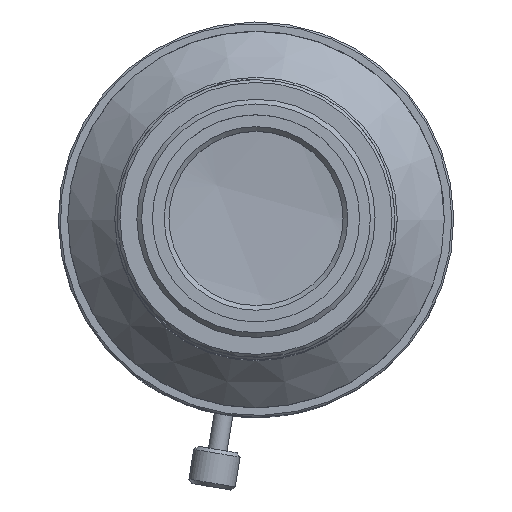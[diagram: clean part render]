
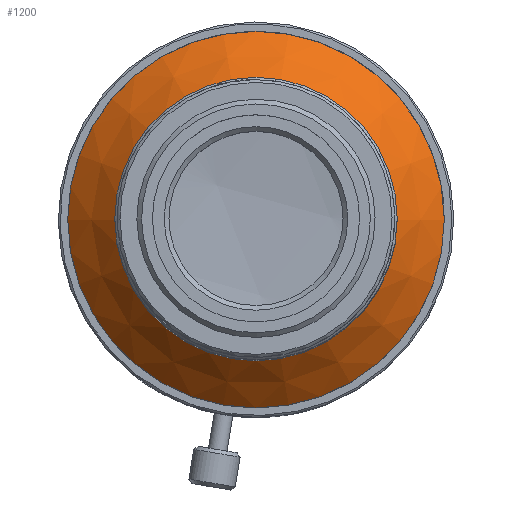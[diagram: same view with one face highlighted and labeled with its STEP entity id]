
A CAD part, top view. The second image highlights one B-rep face of the part: STEP entity #1200.
In plain terms, the highlighted conical face has half-angle 45 degrees and reference radius 20 mm.
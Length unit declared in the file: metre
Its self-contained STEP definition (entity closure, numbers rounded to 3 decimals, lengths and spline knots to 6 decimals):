
#1200=ADVANCED_FACE('NONE',(#3115,#3116),#3117,.T.);
#2090=EDGE_CURVE('0:4175',#4388,#4388,#4389,.T.);
#2094=EDGE_CURVE('0:4163',#4394,#4394,#4395,.T.);
#3115=FACE_OUTER_BOUND('',#5557,.T.);
#3116=FACE_BOUND('',#5558,.T.);
#3117=CONICAL_SURFACE('',#5559,0.02,0.785);
#4388=VERTEX_POINT('',#10600);
#4389=CIRCLE('',#10601,0.015);
#4394=VERTEX_POINT('',#10608);
#4395=CIRCLE('',#10609,0.02);
#5557=EDGE_LOOP('',(#14030));
#5558=EDGE_LOOP('',(#14031));
#5559=AXIS2_PLACEMENT_3D('',#14032,#14033,#14034);
#10600=CARTESIAN_POINT('',(0.017776,0.008552,0.05512));
#10601=AXIS2_PLACEMENT_3D('',#15339,#15340,#15341);
#10608=CARTESIAN_POINT('',(-0.016963,0.004287,0.05012));
#10609=AXIS2_PLACEMENT_3D('',#15345,#15346,#15347);
#14030=ORIENTED_EDGE('',*,*,#2094,.F.);
#14031=ORIENTED_EDGE('',*,*,#2090,.T.);
#14032=CARTESIAN_POINT('',(0.002888,0.006724,0.05012));
#14033=DIRECTION('',(0.,0.,-1.0));
#14034=DIRECTION('',(-0.993,-0.122,0.));
#15339=CARTESIAN_POINT('',(0.002888,0.006724,0.05512));
#15340=DIRECTION('',(0.,0.,-1.0));
#15341=DIRECTION('',(0.993,0.122,0.));
#15345=CARTESIAN_POINT('',(0.002888,0.006724,0.05012));
#15346=DIRECTION('',(0.,0.,-1.0));
#15347=DIRECTION('',(-0.993,-0.122,0.));
